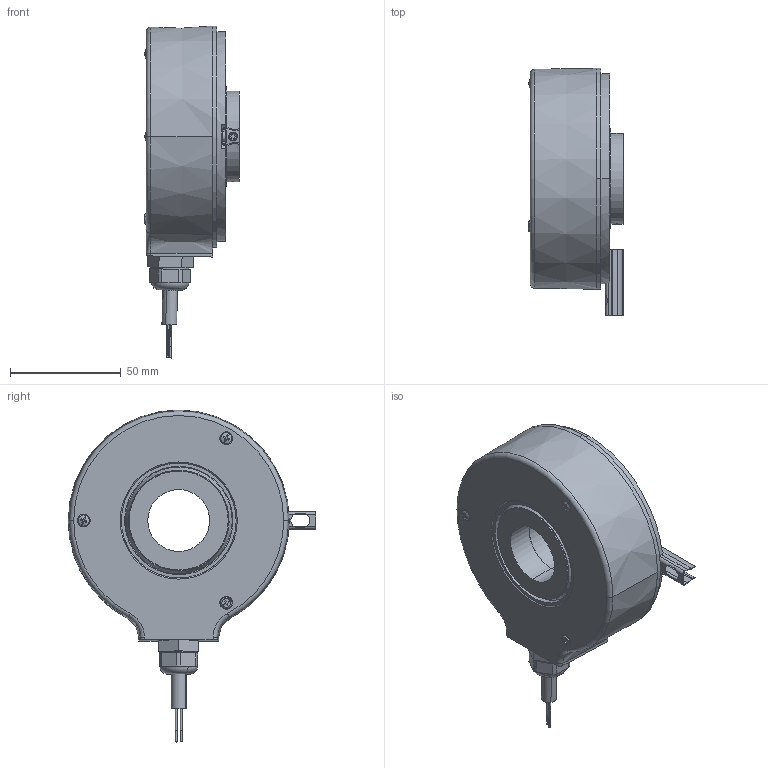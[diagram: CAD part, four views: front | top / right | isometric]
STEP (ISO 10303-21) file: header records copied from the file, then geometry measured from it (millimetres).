
FILE_DESCRIPTION (( 'STEP AP214' ), '1' );
FILE_NAME ('8.A020.33X1.XXXX.STEP', '2014-08-26T11:08:45', ( 'LauferA' ), ( 'Microsoft' ), 'SwSTEP 2.0', 'SolidWorks 2013', '' );
FILE_SCHEMA (( 'AUTOMOTIVE_DESIGN' ));
Length unit declared in the file: millimetre
Products named in the file (1): 8.A020.33X1.XXXX
Bounding box: 42.6 x 112 x 150.2 mm (x, y, z)
Volume: 163220.1 mm3; surface area: 84688.9 mm2
Topology: 18 solids, 18 shells, 664 faces, 1697 edges, 1051 vertices
Faces by surface type: plane 228, cylinder 213, cone 115, torus 52, sphere 52, bspline 4
Entity records: 29090 total; most frequent: CARTESIAN_POINT 5918, DIRECTION 3448, ORIENTED_EDGE 3086, EDGE_CURVE 1543, AXIS2_PLACEMENT_3D 1384, VERTEX_POINT 979, EDGE_LOOP 812, CIRCLE 723
